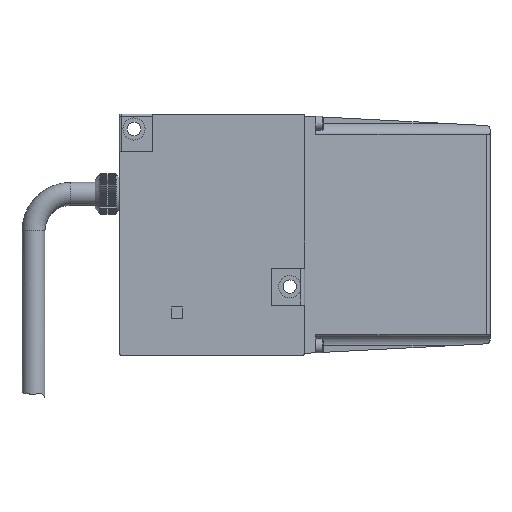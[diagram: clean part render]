
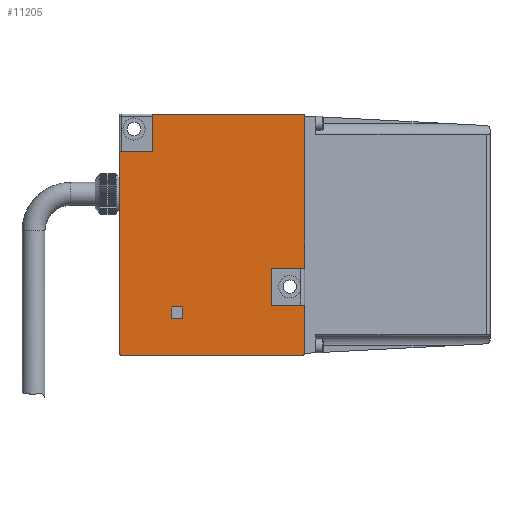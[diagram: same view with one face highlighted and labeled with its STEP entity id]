
A CAD part, front view. The second image highlights one B-rep face of the part: STEP entity #11205.
In plain terms, the highlighted planar face has unit normal (0, -1, 0).
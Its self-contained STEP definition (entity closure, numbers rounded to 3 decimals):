
#2016 = EDGE_CURVE ( '������39', #12535, #12547, #11844, .T. ) ;
#2017 = EDGE_CURVE ( '������17', #12535, #12497, #11847, .T. ) ;
#2018 = EDGE_CURVE ( 'NONE', #12497, #4000, #11850, .T. ) ;
#2019 = EDGE_CURVE ( 'NONE', #12548, #4000, #11849, .T. ) ;
#2020 = EDGE_CURVE ( '������1', #12523, #12548, #11852, .T. ) ;
#2021 = EDGE_CURVE ( '������48', #4058, #12523, #11854, .T. ) ;
#2022 = EDGE_CURVE ( 'NONE', #4019, #4058, #11856, .T. ) ;
#2023 = EDGE_CURVE ( 'NONE', #4019, #12511, #11859, .T. ) ;
#2024 = EDGE_CURVE ( '������85', #4028, #12511, #11858, .T. ) ;
#2027 = EDGE_CURVE ( 'NONE', #4028, #12546, #11864, .T. ) ;
#2028 = EDGE_CURVE ( '������100', #12546, #4040, #11863, .T. ) ;
#2029 = EDGE_CURVE ( '������45', #12549, #4040, #11866, .T. ) ;
#2030 = EDGE_CURVE ( '������13', #12547, #12549, #11868, .T. ) ;
#2031 = EDGE_CURVE ( 'NONE', #12536, #12519, #11870, .T. ) ;
#2032 = EDGE_CURVE ( 'NONE', #4027, #12536, #11872, .T. ) ;
#2033 = EDGE_CURVE ( 'NONE', #12529, #4027, #11874, .T. ) ;
#2034 = EDGE_CURVE ( 'NONE', #12519, #12529, #11876, .T. ) ;
#3040 = PLANE ( 'NONE',  #7395 ) ;
#3041 = CARTESIAN_POINT ( 'NONE',  ( 0., 0., -65. ) ) ;
#3042 = DIRECTION ( 'NONE',  ( 0., -1., 0. ) ) ;
#3043 = DIRECTION ( 'NONE',  ( 0., 0., -1. ) ) ;
#3528 = ORIENTED_EDGE ( 'NONE', *, *, #2016, .F. ) ;
#3529 = ORIENTED_EDGE ( 'NONE', *, *, #2017, .T. ) ;
#3530 = ORIENTED_EDGE ( 'NONE', *, *, #2018, .T. ) ;
#3531 = ORIENTED_EDGE ( 'NONE', *, *, #2019, .F. ) ;
#3532 = ORIENTED_EDGE ( 'NONE', *, *, #2020, .F. ) ;
#3533 = ORIENTED_EDGE ( 'NONE', *, *, #2021, .F. ) ;
#3534 = ORIENTED_EDGE ( 'NONE', *, *, #2022, .F. ) ;
#3535 = ORIENTED_EDGE ( 'NONE', *, *, #2023, .T. ) ;
#3536 = ORIENTED_EDGE ( 'NONE', *, *, #2024, .F. ) ;
#3537 = ORIENTED_EDGE ( 'NONE', *, *, #2027, .T. ) ;
#3538 = ORIENTED_EDGE ( 'NONE', *, *, #2028, .T. ) ;
#3539 = ORIENTED_EDGE ( 'NONE', *, *, #2029, .F. ) ;
#3540 = ORIENTED_EDGE ( 'NONE', *, *, #2030, .F. ) ;
#3541 = ORIENTED_EDGE ( 'NONE', *, *, #2031, .F. ) ;
#3542 = ORIENTED_EDGE ( 'NONE', *, *, #2032, .F. ) ;
#3543 = ORIENTED_EDGE ( 'NONE', *, *, #2033, .F. ) ;
#3544 = ORIENTED_EDGE ( 'NONE', *, *, #2034, .F. ) ;
#3656 = AXIS2_PLACEMENT_3D ( 'NONE', #12222, #12223, #12224 ) ;
#3657 = AXIS2_PLACEMENT_3D ( 'NONE', #12211, #12212, #12213 ) ;
#3658 = AXIS2_PLACEMENT_3D ( 'NONE', #12200, #12201, #12202 ) ;
#4000 = VERTEX_POINT ( 'NONE', #10708 ) ;
#4019 = VERTEX_POINT ( 'NONE', #10727 ) ;
#4027 = VERTEX_POINT ( 'NONE', #10735 ) ;
#4028 = VERTEX_POINT ( 'NONE', #10736 ) ;
#4040 = VERTEX_POINT ( 'NONE', #10748 ) ;
#4058 = VERTEX_POINT ( 'NONE', #10766 ) ;
#7395 = AXIS2_PLACEMENT_3D ( 'NONE', #3041, #3042, #3043 ) ;
#9336 = CARTESIAN_POINT ( 'NONE',  ( 49.866, 0., -0.159 ) ) ;
#9350 = CARTESIAN_POINT ( 'NONE',  ( 0.5, 0., -65. ) ) ;
#9358 = CARTESIAN_POINT ( 'NONE',  ( 17., 0., -55. ) ) ;
#9362 = CARTESIAN_POINT ( 'NONE',  ( 9., 0., -10. ) ) ;
#9368 = CARTESIAN_POINT ( 'NONE',  ( 17., 0., -52. ) ) ;
#9374 = CARTESIAN_POINT ( 'NONE',  ( 49.866, 0., -41.5 ) ) ;
#9375 = CARTESIAN_POINT ( 'NONE',  ( 14., 0., -55. ) ) ;
#9385 = CARTESIAN_POINT ( 'NONE',  ( 49.866, 0., -64.841 ) ) ;
#9386 = CARTESIAN_POINT ( 'NONE',  ( 41., 0., -41.5 ) ) ;
#9387 = CARTESIAN_POINT ( 'NONE',  ( 9., 0., 0. ) ) ;
#9388 = CARTESIAN_POINT ( 'NONE',  ( 41., 0., -51.5 ) ) ;
#9799 = EDGE_LOOP ( 'NONE', ( #3528, #3529, #3530, #3531, #3532, #3533, #3534, #3535, #3536, #3537, #3538, #3539, #3540 ) ) ;
#9800 = EDGE_LOOP ( 'NONE', ( #3541, #3542, #3543, #3544 ) ) ;
#10708 = CARTESIAN_POINT ( 'NONE',  ( 49.5, 0., 0. ) ) ;
#10727 = CARTESIAN_POINT ( 'NONE',  ( 0., 0., -64.5 ) ) ;
#10735 = CARTESIAN_POINT ( 'NONE',  ( 14., 0., -52. ) ) ;
#10736 = CARTESIAN_POINT ( 'NONE',  ( 49.5, 0., -65. ) ) ;
#10748 = CARTESIAN_POINT ( 'NONE',  ( 49.866, 0., -51.5 ) ) ;
#10766 = CARTESIAN_POINT ( 'NONE',  ( 0., 0., -10. ) ) ;
#11205 = ADVANCED_FACE ( '�����12', ( #12762, #12763 ), #3040, .T. ) ;
#11844 = LINE ( 'NONE', #12196, #11846 ) ;
#11846 = VECTOR ( 'NONE', #12197, 1000. ) ;
#11847 = LINE ( 'NONE', #12198, #11848 ) ;
#11848 = VECTOR ( 'NONE', #12199, 1000. ) ;
#11849 = LINE ( 'NONE', #12203, #11851 ) ;
#11850 = CIRCLE ( 'NONE', #3658, 0.5 ) ;
#11851 = VECTOR ( 'NONE', #12204, 1000. ) ;
#11852 = LINE ( 'NONE', #12205, #11853 ) ;
#11853 = VECTOR ( 'NONE', #12206, 1000. ) ;
#11854 = LINE ( 'NONE', #12207, #11855 ) ;
#11855 = VECTOR ( 'NONE', #12208, 1000. ) ;
#11856 = LINE ( 'NONE', #12209, #11857 ) ;
#11857 = VECTOR ( 'NONE', #12210, 1000. ) ;
#11858 = LINE ( 'NONE', #12214, #11860 ) ;
#11859 = CIRCLE ( 'NONE', #3657, 0.5 ) ;
#11860 = VECTOR ( 'NONE', #12215, 1000. ) ;
#11863 = LINE ( 'NONE', #12225, #11865 ) ;
#11864 = CIRCLE ( 'NONE', #3656, 0.5 ) ;
#11865 = VECTOR ( 'NONE', #12226, 1000. ) ;
#11866 = LINE ( 'NONE', #12227, #11867 ) ;
#11867 = VECTOR ( 'NONE', #12228, 1000. ) ;
#11868 = LINE ( 'NONE', #12229, #11869 ) ;
#11869 = VECTOR ( 'NONE', #12230, 1000. ) ;
#11870 = LINE ( 'NONE', #12231, #11871 ) ;
#11871 = VECTOR ( 'NONE', #12232, 1000. ) ;
#11872 = LINE ( 'NONE', #12233, #11873 ) ;
#11873 = VECTOR ( 'NONE', #12234, 1000. ) ;
#11874 = LINE ( 'NONE', #12235, #11875 ) ;
#11875 = VECTOR ( 'NONE', #12236, 1000. ) ;
#11876 = LINE ( 'NONE', #12237, #11877 ) ;
#11877 = VECTOR ( 'NONE', #12238, 1000. ) ;
#12196 = CARTESIAN_POINT ( 'NONE',  ( 50., 0., -41.5 ) ) ;
#12197 = DIRECTION ( 'NONE',  ( -1., 0., 0. ) ) ;
#12198 = CARTESIAN_POINT ( 'NONE',  ( 49.866, 0., -41.5 ) ) ;
#12199 = DIRECTION ( 'NONE',  ( 0., 0., 1. ) ) ;
#12200 = CARTESIAN_POINT ( 'NONE',  ( 49.5, 0., -0.5 ) ) ;
#12201 = DIRECTION ( 'NONE',  ( 0., -1., 0. ) ) ;
#12202 = DIRECTION ( 'NONE',  ( 0., 0., -1. ) ) ;
#12203 = CARTESIAN_POINT ( 'NONE',  ( 0., 0., 0. ) ) ;
#12204 = DIRECTION ( 'NONE',  ( 1., 0., 0. ) ) ;
#12205 = CARTESIAN_POINT ( 'NONE',  ( 9., 0., 0. ) ) ;
#12206 = DIRECTION ( 'NONE',  ( 0., 0., 1. ) ) ;
#12207 = CARTESIAN_POINT ( 'NONE',  ( 0., 0., -10. ) ) ;
#12208 = DIRECTION ( 'NONE',  ( 1., 0., 0. ) ) ;
#12209 = CARTESIAN_POINT ( 'NONE',  ( 0., 0., 0. ) ) ;
#12210 = DIRECTION ( 'NONE',  ( 0., 0., 1. ) ) ;
#12211 = CARTESIAN_POINT ( 'NONE',  ( 0.5, 0., -64.5 ) ) ;
#12212 = DIRECTION ( 'NONE',  ( 0., -1., 0. ) ) ;
#12213 = DIRECTION ( 'NONE',  ( 0., 0., -1. ) ) ;
#12214 = CARTESIAN_POINT ( 'NONE',  ( 0., 0., -65. ) ) ;
#12215 = DIRECTION ( 'NONE',  ( -1., 0., 0. ) ) ;
#12222 = CARTESIAN_POINT ( 'NONE',  ( 49.5, 0., -64.5 ) ) ;
#12223 = DIRECTION ( 'NONE',  ( 0., -1., 0. ) ) ;
#12224 = DIRECTION ( 'NONE',  ( 0., 0., -1. ) ) ;
#12225 = CARTESIAN_POINT ( 'NONE',  ( 49.866, 0., -64.841 ) ) ;
#12226 = DIRECTION ( 'NONE',  ( 0., 0., 1. ) ) ;
#12227 = CARTESIAN_POINT ( 'NONE',  ( 50., 0., -51.5 ) ) ;
#12228 = DIRECTION ( 'NONE',  ( 1., 0., 0. ) ) ;
#12229 = CARTESIAN_POINT ( 'NONE',  ( 41., 0., -41.5 ) ) ;
#12230 = DIRECTION ( 'NONE',  ( 0., 0., -1. ) ) ;
#12231 = CARTESIAN_POINT ( 'NONE',  ( 14., 0., -55. ) ) ;
#12232 = DIRECTION ( 'NONE',  ( 1., 0., 0. ) ) ;
#12233 = CARTESIAN_POINT ( 'NONE',  ( 14., 0., -52. ) ) ;
#12234 = DIRECTION ( 'NONE',  ( 0., 0., -1. ) ) ;
#12235 = CARTESIAN_POINT ( 'NONE',  ( 14., 0., -52. ) ) ;
#12236 = DIRECTION ( 'NONE',  ( -1., 0., 0. ) ) ;
#12237 = CARTESIAN_POINT ( 'NONE',  ( 17., 0., -52. ) ) ;
#12238 = DIRECTION ( 'NONE',  ( 0., 0., 1. ) ) ;
#12497 = VERTEX_POINT ( 'NONE', #9336 ) ;
#12511 = VERTEX_POINT ( 'NONE', #9350 ) ;
#12519 = VERTEX_POINT ( 'NONE', #9358 ) ;
#12523 = VERTEX_POINT ( 'NONE', #9362 ) ;
#12529 = VERTEX_POINT ( 'NONE', #9368 ) ;
#12535 = VERTEX_POINT ( 'NONE', #9374 ) ;
#12536 = VERTEX_POINT ( 'NONE', #9375 ) ;
#12546 = VERTEX_POINT ( 'NONE', #9385 ) ;
#12547 = VERTEX_POINT ( 'NONE', #9386 ) ;
#12548 = VERTEX_POINT ( 'NONE', #9387 ) ;
#12549 = VERTEX_POINT ( 'NONE', #9388 ) ;
#12762 = FACE_OUTER_BOUND ( 'NONE', #9799, .T. ) ;
#12763 = FACE_BOUND ( 'NONE', #9800, .T. ) ;
